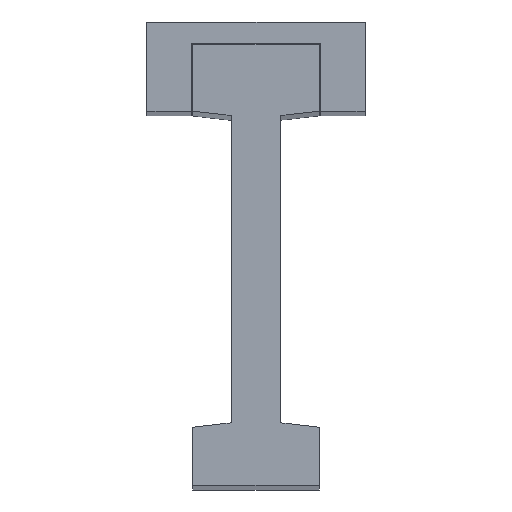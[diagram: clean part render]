
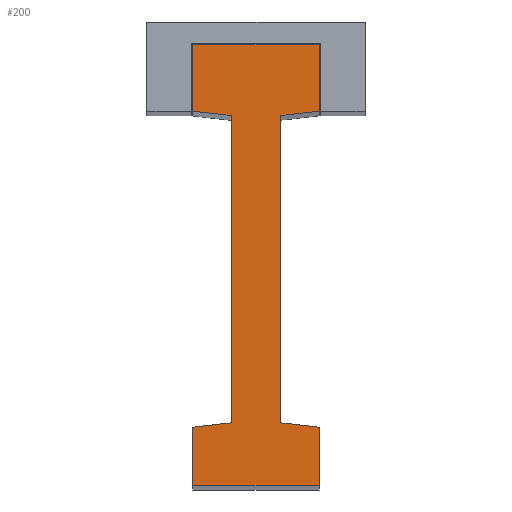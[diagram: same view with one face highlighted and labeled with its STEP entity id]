
A CAD part, top view. The second image highlights one B-rep face of the part: STEP entity #200.
In plain terms, the highlighted planar face has unit normal (0, 0, 1).
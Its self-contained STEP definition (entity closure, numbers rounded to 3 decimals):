
#74 = VERTEX_POINT ( 'NONE', #4344 ) ;
#184 = ORIENTED_EDGE ( 'NONE', *, *, #2692, .T. ) ;
#200 = ADVANCED_FACE ( 'NONE', ( #1938 ), #1485, .T. ) ;
#201 = CARTESIAN_POINT ( 'NONE',  ( 86.45, 301.204, 905.517 ) ) ;
#221 = CARTESIAN_POINT ( 'NONE',  ( 77.8, 300.204, 905.517 ) ) ;
#286 = CARTESIAN_POINT ( 'NONE',  ( 57.95, 217.204, 905.517 ) ) ;
#348 = DIRECTION ( 'NONE',  ( -1., 0., 0. ) ) ;
#427 = LINE ( 'NONE', #4797, #3900 ) ;
#532 = ORIENTED_EDGE ( 'NONE', *, *, #3680, .T. ) ;
#713 = EDGE_CURVE ( 'NONE', #4862, #974, #2945, .T. ) ;
#720 = DIRECTION ( 'NONE',  ( 1., 0., 0. ) ) ;
#802 = EDGE_CURVE ( 'NONE', #3316, #5497, #3796, .T. ) ;
#841 = VECTOR ( 'NONE', #720, 1000. ) ;
#974 = VERTEX_POINT ( 'NONE', #5269 ) ;
#1133 = CARTESIAN_POINT ( 'NONE',  ( 57.95, 230.204, 905.517 ) ) ;
#1166 = CARTESIAN_POINT ( 'NONE',  ( 86.45, 316.204, 905.517 ) ) ;
#1244 = LINE ( 'NONE', #2970, #5552 ) ;
#1352 = ORIENTED_EDGE ( 'NONE', *, *, #5468, .T. ) ;
#1379 = DIRECTION ( 'NONE',  ( -0.993, 0.115, 0. ) ) ;
#1425 = VERTEX_POINT ( 'NONE', #2210 ) ;
#1457 = CARTESIAN_POINT ( 'NONE',  ( 57.95, 316.204, 905.517 ) ) ;
#1466 = CARTESIAN_POINT ( 'NONE',  ( 57.95, 217.204, 905.517 ) ) ;
#1485 = PLANE ( 'NONE',  #4997 ) ;
#1492 = VERTEX_POINT ( 'NONE', #4012 ) ;
#1593 = CARTESIAN_POINT ( 'NONE',  ( 57.95, 217.204, 905.517 ) ) ;
#1602 = ORIENTED_EDGE ( 'NONE', *, *, #5278, .T. ) ;
#1811 = VERTEX_POINT ( 'NONE', #1133 ) ;
#1879 = EDGE_CURVE ( 'NONE', #974, #1811, #1244, .T. ) ;
#1929 = ORIENTED_EDGE ( 'NONE', *, *, #4809, .F. ) ;
#1938 = FACE_OUTER_BOUND ( 'NONE', #3080, .T. ) ;
#2025 = VERTEX_POINT ( 'NONE', #221 ) ;
#2044 = DIRECTION ( 'NONE',  ( 0., 0., 1. ) ) ;
#2156 = LINE ( 'NONE', #5137, #4149 ) ;
#2159 = DIRECTION ( 'NONE',  ( 0., -1., 0. ) ) ;
#2192 = EDGE_CURVE ( 'NONE', #4101, #2025, #4359, .T. ) ;
#2210 = CARTESIAN_POINT ( 'NONE',  ( 57.95, 301.204, 905.517 ) ) ;
#2241 = EDGE_CURVE ( 'NONE', #4176, #4101, #427, .T. ) ;
#2259 = CARTESIAN_POINT ( 'NONE',  ( 77.8, 231.204, 905.517 ) ) ;
#2574 = DIRECTION ( 'NONE',  ( 0., -1., 0. ) ) ;
#2609 = CARTESIAN_POINT ( 'NONE',  ( 66.6, 298.704, 905.517 ) ) ;
#2633 = VECTOR ( 'NONE', #4966, 1000. ) ;
#2642 = CARTESIAN_POINT ( 'NONE',  ( 77.8, 231.204, 905.517 ) ) ;
#2692 = EDGE_CURVE ( 'NONE', #2025, #74, #4489, .T. ) ;
#2696 = CARTESIAN_POINT ( 'NONE',  ( 57.95, 301.204, 905.517 ) ) ;
#2853 = ORIENTED_EDGE ( 'NONE', *, *, #2241, .T. ) ;
#2857 = DIRECTION ( 'NONE',  ( 0., 1., 0. ) ) ;
#2875 = DIRECTION ( 'NONE',  ( 1., 0., 0. ) ) ;
#2915 = CARTESIAN_POINT ( 'NONE',  ( 57.95, 316.204, 905.517 ) ) ;
#2945 = LINE ( 'NONE', #2609, #4833 ) ;
#2951 = DIRECTION ( 'NONE',  ( 0., -1., 0. ) ) ;
#2970 = CARTESIAN_POINT ( 'NONE',  ( 66.6, 231.204, 905.517 ) ) ;
#2998 = CARTESIAN_POINT ( 'NONE',  ( 86.45, 316.204, 905.517 ) ) ;
#3018 = VECTOR ( 'NONE', #4218, 1000. ) ;
#3031 = CARTESIAN_POINT ( 'NONE',  ( 66.6, 300.204, 905.517 ) ) ;
#3080 = EDGE_LOOP ( 'NONE', ( #5489, #1929, #5339, #3364, #532, #3744, #1352, #2853, #5228, #184, #1602, #5170 ) ) ;
#3083 = VECTOR ( 'NONE', #5622, 1000. ) ;
#3316 = VERTEX_POINT ( 'NONE', #1166 ) ;
#3364 = ORIENTED_EDGE ( 'NONE', *, *, #1879, .T. ) ;
#3568 = VECTOR ( 'NONE', #2951, 1000. ) ;
#3680 = EDGE_CURVE ( 'NONE', #1811, #4668, #2156, .T. ) ;
#3739 = LINE ( 'NONE', #1593, #841 ) ;
#3744 = ORIENTED_EDGE ( 'NONE', *, *, #4390, .T. ) ;
#3796 = LINE ( 'NONE', #2998, #5621 ) ;
#3899 = LINE ( 'NONE', #2696, #5025 ) ;
#3900 = VECTOR ( 'NONE', #1379, 1000. ) ;
#4012 = CARTESIAN_POINT ( 'NONE',  ( 86.45, 217.204, 905.517 ) ) ;
#4101 = VERTEX_POINT ( 'NONE', #2259 ) ;
#4149 = VECTOR ( 'NONE', #2574, 1000. ) ;
#4176 = VERTEX_POINT ( 'NONE', #5225 ) ;
#4218 = DIRECTION ( 'NONE',  ( 0., 1., 0. ) ) ;
#4344 = CARTESIAN_POINT ( 'NONE',  ( 86.45, 301.204, 905.517 ) ) ;
#4359 = LINE ( 'NONE', #2642, #3083 ) ;
#4390 = EDGE_CURVE ( 'NONE', #4668, #1492, #3739, .T. ) ;
#4415 = DIRECTION ( 'NONE',  ( -0.993, 0.115, 0. ) ) ;
#4489 = LINE ( 'NONE', #201, #2633 ) ;
#4524 = LINE ( 'NONE', #4982, #4925 ) ;
#4668 = VERTEX_POINT ( 'NONE', #1466 ) ;
#4741 = LINE ( 'NONE', #5040, #3018 ) ;
#4797 = CARTESIAN_POINT ( 'NONE',  ( 86.45, 230.204, 905.517 ) ) ;
#4809 = EDGE_CURVE ( 'NONE', #4862, #1425, #3899, .T. ) ;
#4833 = VECTOR ( 'NONE', #2159, 1000. ) ;
#4862 = VERTEX_POINT ( 'NONE', #3031 ) ;
#4925 = VECTOR ( 'NONE', #2857, 1000. ) ;
#4966 = DIRECTION ( 'NONE',  ( 0.993, 0.115, 0. ) ) ;
#4982 = CARTESIAN_POINT ( 'NONE',  ( 86.45, 217.204, 905.517 ) ) ;
#4997 = AXIS2_PLACEMENT_3D ( 'NONE', #286, #2044, #2875 ) ;
#5005 = LINE ( 'NONE', #2915, #3568 ) ;
#5025 = VECTOR ( 'NONE', #4415, 1000. ) ;
#5039 = EDGE_CURVE ( 'NONE', #5497, #1425, #5005, .T. ) ;
#5040 = CARTESIAN_POINT ( 'NONE',  ( 86.45, 301.204, 905.517 ) ) ;
#5137 = CARTESIAN_POINT ( 'NONE',  ( 57.95, 230.204, 905.517 ) ) ;
#5170 = ORIENTED_EDGE ( 'NONE', *, *, #802, .T. ) ;
#5225 = CARTESIAN_POINT ( 'NONE',  ( 86.45, 230.204, 905.517 ) ) ;
#5228 = ORIENTED_EDGE ( 'NONE', *, *, #2192, .T. ) ;
#5269 = CARTESIAN_POINT ( 'NONE',  ( 66.6, 231.204, 905.517 ) ) ;
#5278 = EDGE_CURVE ( 'NONE', #74, #3316, #4741, .T. ) ;
#5339 = ORIENTED_EDGE ( 'NONE', *, *, #713, .T. ) ;
#5468 = EDGE_CURVE ( 'NONE', #1492, #4176, #4524, .T. ) ;
#5489 = ORIENTED_EDGE ( 'NONE', *, *, #5039, .T. ) ;
#5497 = VERTEX_POINT ( 'NONE', #1457 ) ;
#5552 = VECTOR ( 'NONE', #5572, 1000. ) ;
#5572 = DIRECTION ( 'NONE',  ( -0.993, -0.115, 0. ) ) ;
#5621 = VECTOR ( 'NONE', #348, 1000. ) ;
#5622 = DIRECTION ( 'NONE',  ( 0., 1., 0. ) ) ;
